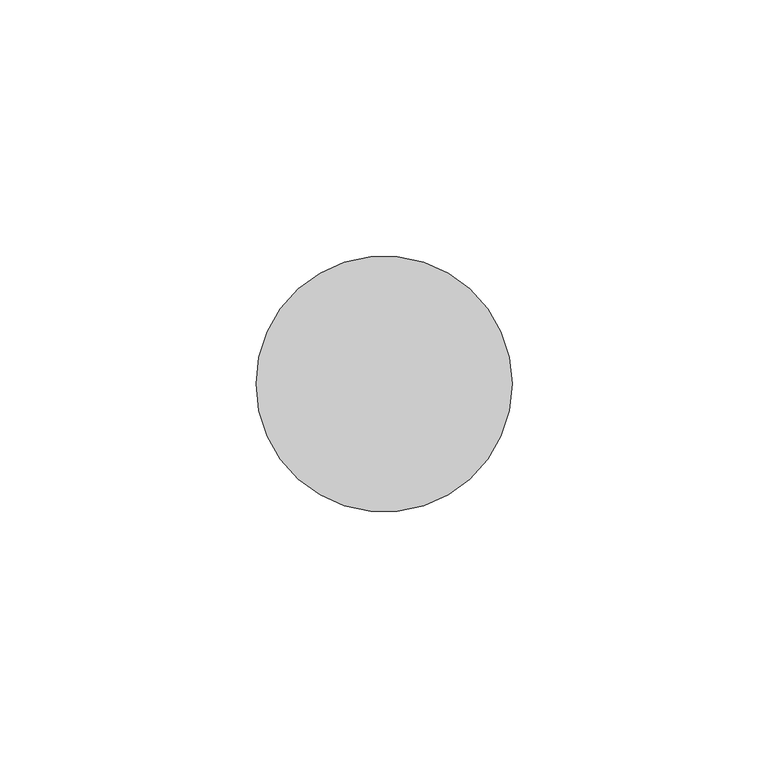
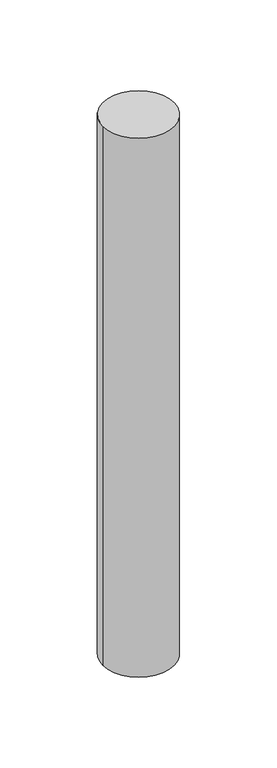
"""IFC4 building model written with IfcOpenShell, lengths in millimetres: member geometry, 圓形豎框 : 25mm 半徑."""

import ifcopenshell
import ifcopenshell.guid

model = None  # the IFC model being written
_history = None  # IfcOwnerHistory: only IFC2X3 demands one
_inside = {}  # id of a spatial element -> (the spatial element, [elements in it])
_under = {}  # id of a project, library or spatial element -> (it, [spatial elements below it])
_declared = {}  # id of a project -> (the project, [libraries it declares])
_typed = {}  # id of a type object -> (the type object, [elements of that type])
_made_of = {}  # id of a material, layer set ... -> (it, [elements and type objects made of it])


def new_model(schema):
    """Start an empty IFC model of exactly this schema.

    Asked for "IFC4X3", IfcOpenShell would pick the latest addendum, in which some entities
    have other attributes; the version numbers below select the first issue.
    IFC2X3 requires an IfcOwnerHistory on every rooted entity: one is made here for all.
    """
    global model, _history
    if schema == "IFC4X3":
        model = ifcopenshell.file(schema_version=(4, 3, 0, 0))
    else:
        model = ifcopenshell.file(schema=schema)
    _inside.clear()
    _under.clear()
    _declared.clear()
    _typed.clear()
    _made_of.clear()
    _history = None
    if model.schema == "IFC2X3":
        org = make("IfcOrganization", Name="unknown")
        user = make(
            "IfcPersonAndOrganization",
            ThePerson=make("IfcPerson", FamilyName="unknown"),
            TheOrganization=org,
        )
        app = make(
            "IfcApplication",
            ApplicationDeveloper=org,
            Version="unknown",
            ApplicationFullName="unknown",
            ApplicationIdentifier="unknown",
        )
        _history = make(
            "IfcOwnerHistory",
            OwningUser=user,
            OwningApplication=app,
            ChangeAction="ADDED",
            CreationDate=0,
        )
    return model


def make(cls, **values):
    """One entity of the class cls with the attributes given. An attribute that is None is left unset."""
    return model.create_entity(
        cls, **{name: value for name, value in values.items() if value is not None}
    )


def rooted(cls, **values):
    """An entity with a GlobalId (a new one), such as an element, a storey or a relation."""
    return make(cls, GlobalId=ifcopenshell.guid.new(), OwnerHistory=_history, **values)


def si_unit(unit_type, name, prefix=None):
    """IfcSIUnit, for example si_unit("LENGTHUNIT", "METRE", prefix="MILLI")."""
    return make("IfcSIUnit", UnitType=unit_type, Prefix=prefix, Name=name)


def assignment(units):
    """IfcUnitAssignment: the units of a project."""
    return None if units is None else make("IfcUnitAssignment", Units=units)


def point(xyz):
    """IfcCartesianPoint."""
    return None if xyz is None else make("IfcCartesianPoint", Coordinates=xyz)


def direction(xyz):
    """IfcDirection."""
    return None if xyz is None else make("IfcDirection", DirectionRatios=xyz)


def frame(location, z_axis=None, x_axis=None):
    """IfcAxis2Placement3D, a coordinate frame: its origin and axes. An axis left out is left unset."""
    return make(
        "IfcAxis2Placement3D",
        Location=point(location),
        Axis=direction(z_axis),
        RefDirection=direction(x_axis),
    )


def frame_2d(location, x_axis=None):
    """IfcAxis2Placement2D, a coordinate frame in the plane: its origin and x axis."""
    return make(
        "IfcAxis2Placement2D", Location=point(location), RefDirection=direction(x_axis)
    )


def origin():
    """The frame at (0, 0, 0) with its axes left unset."""
    return frame((0.0, 0.0, 0.0))


def origin_2d():
    """The frame at (0, 0) in the plane with its x axis left unset."""
    return frame_2d((0.0, 0.0))


def place(relative_to, where):
    """IfcLocalPlacement: puts the frame where relative to a parent placement (None: the world)."""
    return make(
        "IfcLocalPlacement", PlacementRelTo=relative_to, RelativePlacement=where
    )


def context(
    kind, dimensions, precision=None, world=None, true_north=None, identifier=None
):
    """IfcGeometricRepresentationContext, for example the 3D "Model" context."""
    return make(
        "IfcGeometricRepresentationContext",
        ContextIdentifier=identifier,
        ContextType=kind,
        CoordinateSpaceDimension=dimensions,
        Precision=precision,
        WorldCoordinateSystem=world,
        TrueNorth=true_north,
    )


def project(units=None, contexts=None):
    """IfcProject with its units and contexts."""
    return rooted(
        "IfcProject",
        Name="project",
        RepresentationContexts=contexts,
        UnitsInContext=assignment(units),
    )


def spatial(cls, under=None, at=None, **own):
    """A site, building, storey or space (cls), placed at a placement, below another one or the project."""
    s = rooted(cls, ObjectPlacement=at, **own)
    if under is not None:
        _under.setdefault(under.id(), (under, []))[1].append(s)
    return s


def circle_curve(where, radius):
    """IfcCircle in the frame where."""
    return make("IfcCircle", Position=where, Radius=radius)


def trimmed(basis, trim1, trim2, sense, master):
    """IfcTrimmedCurve: the piece of a basis curve between two trims."""
    return make(
        "IfcTrimmedCurve",
        BasisCurve=basis,
        Trim1=trim1,
        Trim2=trim2,
        SenseAgreement=sense,
        MasterRepresentation=master,
    )


def segment(curve, same_sense, transition):
    """IfcCompositeCurveSegment."""
    return make(
        "IfcCompositeCurveSegment",
        Transition=transition,
        SameSense=same_sense,
        ParentCurve=curve,
    )


def composite_curve(segments, self_intersect=None):
    """IfcCompositeCurve: segments joined end to end."""
    return make("IfcCompositeCurve", Segments=segments, SelfIntersect=self_intersect)


def outline(outer, holes=None, kind="AREA"):
    """IfcArbitraryClosedProfileDef: a profile drawn as a closed curve; with holes, ...WithVoids."""
    if holes is None:
        return make("IfcArbitraryClosedProfileDef", ProfileType=kind, OuterCurve=outer)
    return make(
        "IfcArbitraryProfileDefWithVoids",
        ProfileType=kind,
        OuterCurve=outer,
        InnerCurves=holes,
    )


def extrude(swept, where, along, depth):
    """IfcExtrudedAreaSolid: the profile swept, set in the frame where, extruded along a direction by depth."""
    return make(
        "IfcExtrudedAreaSolid",
        SweptArea=swept,
        Position=where,
        ExtrudedDirection=direction(along),
        Depth=depth,
    )


def shape(context_of_items, identifier, shape_type, items):
    """IfcShapeRepresentation: the items that make up one representation, for example the "Body"."""
    return make(
        "IfcShapeRepresentation",
        ContextOfItems=context_of_items,
        RepresentationIdentifier=identifier,
        RepresentationType=shape_type,
        Items=items,
    )


def source(mapping_origin, context_of_items, identifier, shape_type, items):
    """IfcRepresentationMap: a shape defined once, which mapped items show again and again."""
    return make(
        "IfcRepresentationMap",
        MappingOrigin=mapping_origin,
        MappedRepresentation=shape(context_of_items, identifier, shape_type, items),
    )


def transform(
    local_origin,
    x_axis=None,
    y_axis=None,
    z_axis=None,
    scale=None,
    scale2=None,
    scale3=None,
    uniform=True,
):
    """IfcCartesianTransformationOperator3D, or its non-uniform kind. x_axis, y_axis, z_axis: its Axis1, 2, 3."""
    if uniform:
        return make(
            "IfcCartesianTransformationOperator3D",
            Axis1=direction(x_axis),
            Axis2=direction(y_axis),
            LocalOrigin=point(local_origin),
            Scale=scale,
            Axis3=direction(z_axis),
        )
    return make(
        "IfcCartesianTransformationOperator3DnonUniform",
        Axis1=direction(x_axis),
        Axis2=direction(y_axis),
        LocalOrigin=point(local_origin),
        Scale=scale,
        Axis3=direction(z_axis),
        Scale2=scale2,
        Scale3=scale3,
    )


def mapped(mapping_source, mapping_target):
    """IfcMappedItem: shows the shape of a source again, moved by a transform."""
    return make(
        "IfcMappedItem", MappingSource=mapping_source, MappingTarget=mapping_target
    )


def made_of(thing, what):
    """Note that an element or type object is made of a material, layer set ...; save() writes the relation."""
    if what is not None:
        _made_of.setdefault(what.id(), (what, []))[1].append(thing)
    return thing


def element(
    cls,
    number,
    at=None,
    inside=None,
    cuts=None,
    type_object=None,
    material=None,
    context=None,
    identifier="Body",
    shape_type=None,
    held_by="IfcProductDefinitionShape",
    body=None,
    shapes=None,
    **own,
):
    """One element of the class cls, such as IfcWall. Its Tag is "e" and its number.

    at: its placement. inside: the storey or other place that contains it. cuts: it is an
    opening in that element (IfcRelVoidsElement). A single representation is given by context,
    identifier, shape_type and body (its items); several are given by shapes. held_by: the class
    of the entity that holds the representations. save() writes the other relations.
    """
    e = rooted(cls, Tag="e%d" % number, ObjectPlacement=at, **own)
    if body is not None:
        shapes = [shape(context, identifier, shape_type, body)]
    if shapes is not None:
        e.Representation = make(held_by, Representations=shapes)
    if inside is not None:
        _inside.setdefault(inside.id(), (inside, []))[1].append(e)
    if cuts is not None:
        rooted(
            "IfcRelVoidsElement", RelatingBuildingElement=cuts, RelatedOpeningElement=e
        )
    if type_object is not None:
        _typed.setdefault(type_object.id(), (type_object, []))[1].append(e)
    return made_of(e, material)


def aggregate(whole, parts):
    """IfcRelAggregates: a whole, such as a stair, and the parts it consists of."""
    return rooted("IfcRelAggregates", RelatingObject=whole, RelatedObjects=parts)


def save(model, path):
    """Write the relations noted so far, then the file.

    IfcRelAggregates (storeys below a building ...), IfcRelContainedInSpatialStructure (elements
    in a storey), IfcRelDefinesByType, IfcRelAssociatesMaterial and IfcRelDeclares: one each for
    every whole, place, type object, material and project.
    """
    for whole, parts in _under.values():
        aggregate(whole, parts)
    for where, things in _inside.values():
        rooted(
            "IfcRelContainedInSpatialStructure",
            RelatedElements=things,
            RelatingStructure=where,
        )
    for kind, things in _typed.values():
        rooted("IfcRelDefinesByType", RelatedObjects=things, RelatingType=kind)
    for what, things in _made_of.values():
        rooted("IfcRelAssociatesMaterial", RelatedObjects=things, RelatingMaterial=what)
    for by, libraries in _declared.values():
        rooted("IfcRelDeclares", RelatingContext=by, RelatedDefinitions=libraries)
    model.write(path)


def member_661f9a49(model_context):
    return source(origin(), model_context, "Body", "SweptSolid", [
        extrude(outline(composite_curve([segment(trimmed(circle_curve(origin_2d(), 25.0), [point((25.0, 0.0))], [point((-25.0, 0.0))], False, "CARTESIAN"), True, "CONTINUOUS"), segment(trimmed(circle_curve(origin_2d(), 25.0), [point((-25.0, 0.0))], [point((25.0, 0.0))], False, "CARTESIAN"), True, "CONTINUOUS")], self_intersect=False)), frame((0.0, 0.0, -399.8158183), z_axis=(0.0, 0.0, 1.0), x_axis=(1.0, 0.0, 0.0)), (0.0, 0.0, 1.0), 399.8158183),
    ])


if __name__ == "__main__":
    model = new_model("IFC4")
    model_context = context("Model", 3, world=origin())
    ifc_project = project(units=[si_unit("LENGTHUNIT", "METRE", prefix="MILLI")], contexts=[model_context])
    site = spatial("IfcSite", under=ifc_project)
    building = spatial("IfcBuilding", under=site)
    placement = place(None, origin())
    member_shape = member_661f9a49(model_context)
    element("IfcMember", 1, ObjectType="圓形豎框 : 25mm 半徑", at=placement, inside=building, context=model_context, shape_type="MappedRepresentation", body=[
        mapped(member_shape, transform((0.0, 0.0, 0.0), x_axis=(1.0, 0.0, 0.0), y_axis=(0.0, 1.0, 0.0), z_axis=(0.0, 0.0, 1.0))),
    ])
    save(model, "model.ifc")
